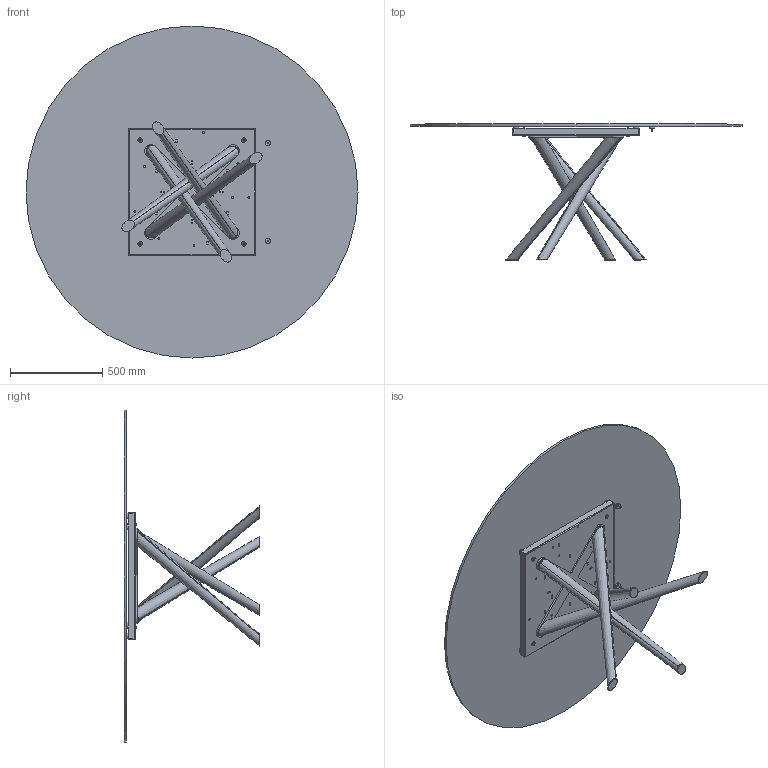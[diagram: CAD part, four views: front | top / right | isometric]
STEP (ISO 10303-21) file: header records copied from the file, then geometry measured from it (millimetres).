
FILE_DESCRIPTION (( 'STEP AP203' ), '1' );
FILE_NAME ('BA13G.STEP', '2024-08-08T06:38:46', ( '' ), ( '' ), 'SwSTEP 2.0', 'SolidWorks 2022', '' );
FILE_SCHEMA (( 'CONFIG_CONTROL_DESIGN' ));
Length unit declared in the file: millimetre
Products named in the file (15): 434070-00-PIEDINO TPV GOMMA NERO D. 30x8max18; COLLO TELAIO UNIVERSALE TTAV0801 CON FERRAMENTA_MTG TOP LEGNO-MARMO-KING; BAB000000-00-BALY BASE GREZZA; BAB000000_02-00-basamento pali conificati; rondella M8_8X16; BAB000000_01-00-Croce Superiore baly; TTAV0801 TELAIO UNIVERSALE TONDO-PIASTRINA; M8xXXmm_M8x20mm; TTAV0801-02-TELAIO UNIVERSALE TONDO; C1XCRMXX-00-piani Rotondi Cristallo_C13 D.180cm; Parte5^BAB000000-00-BALY BASE GREZZA; TTAV0801-02-TELAIO UNIVERSALE TONDO-VASSOIO; M8xXXmm_M8x55mm; BA13G; rondella M8_8X24
Assembly tree (34 placements, depth 4):
  BA13G
    C1XCRMXX-00-piani Rotondi Cristallo_C13 D.180cm
    BAB000000-00-BALY BASE GREZZA
      BAB000000_01-00-Croce Superiore baly
      BAB000000_02-00-basamento pali conificati
      Parte5^BAB000000-00-BALY BASE GREZZA
    COLLO TELAIO UNIVERSALE TTAV0801 CON FERRAMENTA_MTG TOP LEGNO-MARMO-KING
      TTAV0801-02-TELAIO UNIVERSALE TONDO
        TTAV0801-02-TELAIO UNIVERSALE TONDO-VASSOIO
        TTAV0801 TELAIO UNIVERSALE TONDO-PIASTRINA  x4
      rondella M8_8X24  x4
      M8xXXmm_M8x55mm  x4
    434070-00-PIEDINO TPV GOMMA NERO D. 30x8max18  x6
    M8xXXmm_M8x20mm  x4
    rondella M8_8X16  x4
Bounding box: 1800 x 737 x 1800 mm (x, y, z)
Volume: 35268247.2 mm3; surface area: 7992831.7 mm2
Topology: 43 solids, 43 shells, 945 faces, 2281 edges, 1414 vertices
Faces by surface type: plane 398, cylinder 315, torus 120, cone 104, bspline 8
Entity records: 18689 total; most frequent: CARTESIAN_POINT 4396, DIRECTION 2614, ORIENTED_EDGE 2488, EDGE_CURVE 1244, AXIS2_PLACEMENT_3D 954, VERTEX_POINT 796, LINE 706, VECTOR 706
